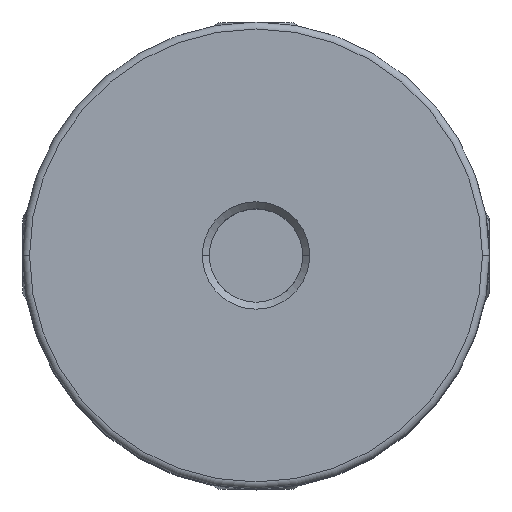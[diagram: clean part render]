
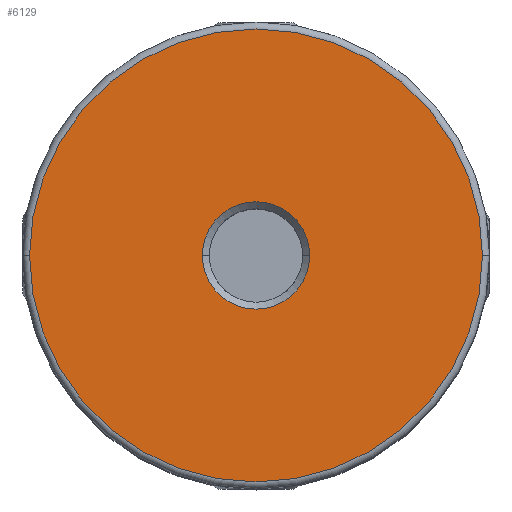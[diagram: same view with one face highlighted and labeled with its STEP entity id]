
A CAD part, top view. The second image highlights one B-rep face of the part: STEP entity #6129.
In plain terms, the highlighted planar face has unit normal (0, 0, 1).
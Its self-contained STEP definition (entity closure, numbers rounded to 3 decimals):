
#107 = EDGE_CURVE ( 'NONE', #1361, #1253, #2339, .T. ) ;
#224 = EDGE_CURVE ( 'NONE', #6063, #6072, #2394, .T. ) ;
#270 = EDGE_CURVE ( 'NONE', #1253, #1361, #2403, .T. ) ;
#491 = EDGE_CURVE ( 'NONE', #6072, #6063, #2447, .T. ) ;
#686 = ORIENTED_EDGE ( 'NONE', *, *, #107, .T. ) ;
#688 = ORIENTED_EDGE ( 'NONE', *, *, #270, .T. ) ;
#689 = ORIENTED_EDGE ( 'NONE', *, *, #491, .T. ) ;
#690 = ORIENTED_EDGE ( 'NONE', *, *, #224, .T. ) ;
#1253 = VERTEX_POINT ( 'NONE', #3263 ) ;
#1361 = VERTEX_POINT ( 'NONE', #3371 ) ;
#1597 = EDGE_LOOP ( 'NONE', ( #688, #686 ) ) ;
#1600 = EDGE_LOOP ( 'NONE', ( #690, #689 ) ) ;
#1841 = AXIS2_PLACEMENT_3D ( 'NONE', #3215, #3219, #3220 ) ;
#2163 = FACE_BOUND ( 'NONE', #1600, .T. ) ;
#2168 = FACE_OUTER_BOUND ( 'NONE', #1597, .T. ) ;
#2170 = AXIS2_PLACEMENT_3D ( 'NONE', #4064, #4065, #4066 ) ;
#2339 = CIRCLE ( 'NONE', #5661, 9.7 ) ;
#2394 = CIRCLE ( 'NONE', #5474, 2.3 ) ;
#2403 = CIRCLE ( 'NONE', #5568, 9.7 ) ;
#2447 = CIRCLE ( 'NONE', #1841, 2.3 ) ;
#3215 = CARTESIAN_POINT ( 'NONE',  ( 0., 0., 12.85 ) ) ;
#3219 = DIRECTION ( 'NONE',  ( 0., 0., -1. ) ) ;
#3220 = DIRECTION ( 'NONE',  ( 0., 1., 0. ) ) ;
#3263 = CARTESIAN_POINT ( 'NONE',  ( -9.7, 0., 12.85 ) ) ;
#3371 = CARTESIAN_POINT ( 'NONE',  ( 9.7, 0., 12.85 ) ) ;
#4034 = CARTESIAN_POINT ( 'NONE',  ( 2.3, 0., 12.85 ) ) ;
#4035 = CARTESIAN_POINT ( 'NONE',  ( -2.3, 0., 12.85 ) ) ;
#4063 = PLANE ( 'NONE',  #2170 ) ;
#4064 = CARTESIAN_POINT ( 'NONE',  ( 0., 0., 12.85 ) ) ;
#4065 = DIRECTION ( 'NONE',  ( 0., 0., -1. ) ) ;
#4066 = DIRECTION ( 'NONE',  ( -1., 0., 0. ) ) ;
#4497 = CARTESIAN_POINT ( 'NONE',  ( 0., 0., 12.85 ) ) ;
#4498 = DIRECTION ( 'NONE',  ( 0., 0., 1. ) ) ;
#4499 = DIRECTION ( 'NONE',  ( -1., 0., 0. ) ) ;
#5066 = CARTESIAN_POINT ( 'NONE',  ( 0., 0., 12.85 ) ) ;
#5070 = DIRECTION ( 'NONE',  ( 0., 0., -1. ) ) ;
#5071 = DIRECTION ( 'NONE',  ( 0., 1., 0. ) ) ;
#5241 = CARTESIAN_POINT ( 'NONE',  ( 0., 0., 12.85 ) ) ;
#5242 = DIRECTION ( 'NONE',  ( 0., 0., 1. ) ) ;
#5243 = DIRECTION ( 'NONE',  ( -1., 0., 0. ) ) ;
#5474 = AXIS2_PLACEMENT_3D ( 'NONE', #5066, #5070, #5071 ) ;
#5568 = AXIS2_PLACEMENT_3D ( 'NONE', #5241, #5242, #5243 ) ;
#5661 = AXIS2_PLACEMENT_3D ( 'NONE', #4497, #4498, #4499 ) ;
#6063 = VERTEX_POINT ( 'NONE', #4034 ) ;
#6072 = VERTEX_POINT ( 'NONE', #4035 ) ;
#6129 = ADVANCED_FACE ( 'NONE', ( #2163, #2168 ), #4063, .F. ) ;
